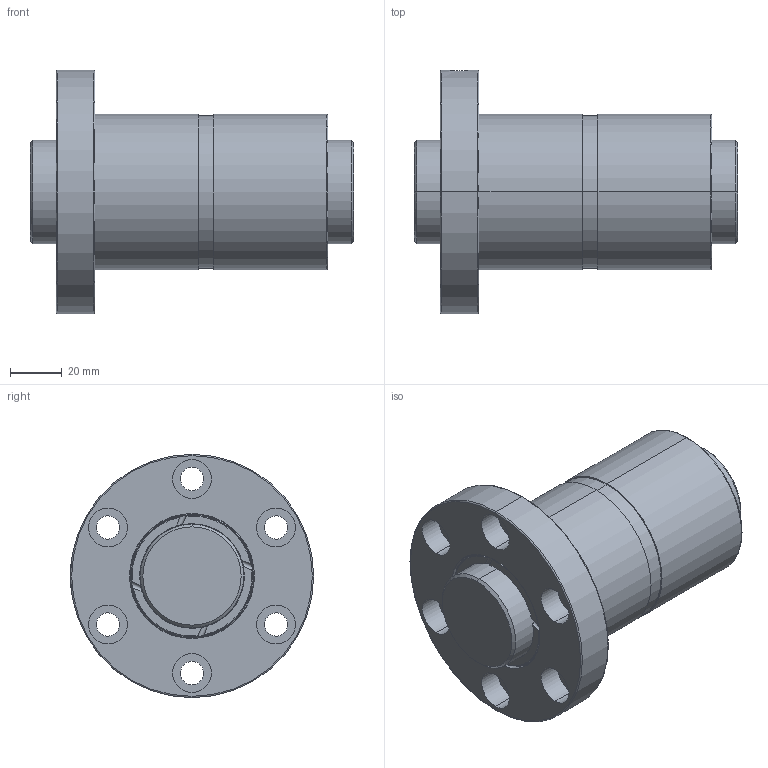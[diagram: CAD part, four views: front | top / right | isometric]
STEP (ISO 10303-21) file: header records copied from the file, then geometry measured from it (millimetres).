
FILE_DESCRIPTION (( 'STEP AP203' ), '1' );
FILE_NAME ('DFZR04005T4N-C.STEP', '2020-06-18T01:23:38', ( '' ), ( '' ), 'SwSTEP 2.0', 'SolidWorks 2013', '' );
FILE_SCHEMA (( 'CONFIG_CONTROL_DESIGN' ));
Length unit declared in the file: millimetre
Products named in the file (1): DFZR04005T4N-C
Bounding box: 125 x 94 x 94 mm (x, y, z)
Volume: 358577.9 mm3; surface area: 72122.4 mm2
Topology: 2 solids, 2 shells, 132 faces, 312 edges, 198 vertices
Faces by surface type: cylinder 74, plane 30, torus 24, cone 4
Entity records: 4347 total; most frequent: CARTESIAN_POINT 1111, DIRECTION 716, ORIENTED_EDGE 624, AXIS2_PLACEMENT_3D 317, EDGE_CURVE 312, VERTEX_POINT 198, CIRCLE 184, EDGE_LOOP 164
